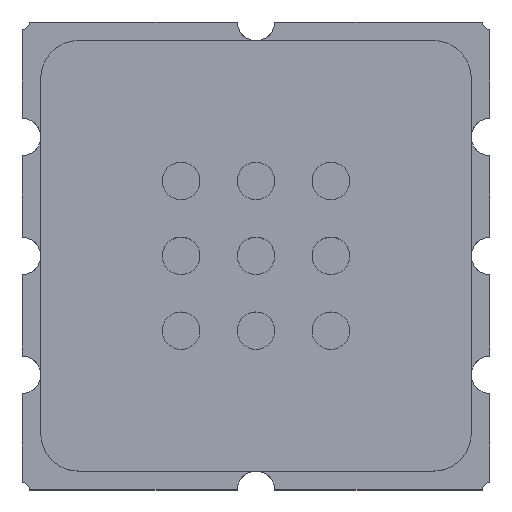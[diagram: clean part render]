
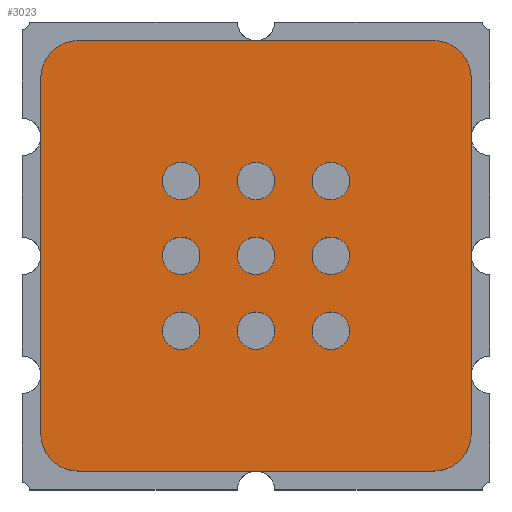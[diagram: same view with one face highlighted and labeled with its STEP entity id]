
A CAD part, top view. The second image highlights one B-rep face of the part: STEP entity #3023.
In plain terms, the highlighted planar face has unit normal (0, 0, 1).
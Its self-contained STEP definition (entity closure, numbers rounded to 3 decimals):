
#13=FACE_BOUND('',#431,.T.);
#14=FACE_BOUND('',#432,.T.);
#15=FACE_BOUND('',#433,.T.);
#16=FACE_BOUND('',#434,.T.);
#17=FACE_BOUND('',#435,.T.);
#18=FACE_BOUND('',#436,.T.);
#19=FACE_BOUND('',#437,.T.);
#20=FACE_BOUND('',#438,.T.);
#21=FACE_BOUND('',#439,.T.);
#262=FACE_OUTER_BOUND('',#430,.T.);
#430=EDGE_LOOP('',(#2659,#2660,#2661,#2662,#2663,#2664,#2665,#2666));
#431=EDGE_LOOP('',(#2667));
#432=EDGE_LOOP('',(#2668));
#433=EDGE_LOOP('',(#2669));
#434=EDGE_LOOP('',(#2670));
#435=EDGE_LOOP('',(#2671));
#436=EDGE_LOOP('',(#2672));
#437=EDGE_LOOP('',(#2673));
#438=EDGE_LOOP('',(#2674));
#439=EDGE_LOOP('',(#2675));
#524=CIRCLE('',#3273,0.4);
#525=CIRCLE('',#3276,0.4);
#526=CIRCLE('',#3277,0.4);
#527=CIRCLE('',#3278,0.4);
#528=CIRCLE('',#3279,0.2);
#529=CIRCLE('',#3280,0.2);
#530=CIRCLE('',#3281,0.2);
#531=CIRCLE('',#3282,0.2);
#532=CIRCLE('',#3283,0.2);
#533=CIRCLE('',#3284,0.2);
#534=CIRCLE('',#3285,0.2);
#535=CIRCLE('',#3286,0.2);
#536=CIRCLE('',#3287,0.2);
#862=LINE('',#4934,#1197);
#864=LINE('',#4938,#1199);
#865=LINE('',#4942,#1200);
#866=LINE('',#4946,#1201);
#1197=VECTOR('',#4047,10.);
#1199=VECTOR('',#4051,10.);
#1200=VECTOR('',#4054,10.);
#1201=VECTOR('',#4057,10.);
#1468=VERTEX_POINT('',#4927);
#1469=VERTEX_POINT('',#4928);
#1470=VERTEX_POINT('',#4933);
#1471=VERTEX_POINT('',#4937);
#1472=VERTEX_POINT('',#4939);
#1473=VERTEX_POINT('',#4941);
#1474=VERTEX_POINT('',#4943);
#1475=VERTEX_POINT('',#4945);
#1476=VERTEX_POINT('',#4948);
#1477=VERTEX_POINT('',#4950);
#1478=VERTEX_POINT('',#4952);
#1479=VERTEX_POINT('',#4954);
#1480=VERTEX_POINT('',#4956);
#1481=VERTEX_POINT('',#4958);
#1482=VERTEX_POINT('',#4960);
#1483=VERTEX_POINT('',#4962);
#1484=VERTEX_POINT('',#4964);
#1868=EDGE_CURVE('',#1468,#1469,#524,.T.);
#1871=EDGE_CURVE('',#1469,#1470,#862,.T.);
#1873=EDGE_CURVE('',#1468,#1471,#864,.T.);
#1874=EDGE_CURVE('',#1472,#1471,#525,.T.);
#1875=EDGE_CURVE('',#1473,#1472,#865,.T.);
#1876=EDGE_CURVE('',#1474,#1473,#526,.T.);
#1877=EDGE_CURVE('',#1475,#1474,#866,.T.);
#1878=EDGE_CURVE('',#1470,#1475,#527,.T.);
#1879=EDGE_CURVE('',#1476,#1476,#528,.T.);
#1880=EDGE_CURVE('',#1477,#1477,#529,.T.);
#1881=EDGE_CURVE('',#1478,#1478,#530,.T.);
#1882=EDGE_CURVE('',#1479,#1479,#531,.T.);
#1883=EDGE_CURVE('',#1480,#1480,#532,.T.);
#1884=EDGE_CURVE('',#1481,#1481,#533,.T.);
#1885=EDGE_CURVE('',#1482,#1482,#534,.T.);
#1886=EDGE_CURVE('',#1483,#1483,#535,.T.);
#1887=EDGE_CURVE('',#1484,#1484,#536,.T.);
#2659=ORIENTED_EDGE('',*,*,#1868,.F.);
#2660=ORIENTED_EDGE('',*,*,#1873,.T.);
#2661=ORIENTED_EDGE('',*,*,#1874,.F.);
#2662=ORIENTED_EDGE('',*,*,#1875,.F.);
#2663=ORIENTED_EDGE('',*,*,#1876,.F.);
#2664=ORIENTED_EDGE('',*,*,#1877,.F.);
#2665=ORIENTED_EDGE('',*,*,#1878,.F.);
#2666=ORIENTED_EDGE('',*,*,#1871,.F.);
#2667=ORIENTED_EDGE('',*,*,#1879,.T.);
#2668=ORIENTED_EDGE('',*,*,#1880,.T.);
#2669=ORIENTED_EDGE('',*,*,#1881,.T.);
#2670=ORIENTED_EDGE('',*,*,#1882,.T.);
#2671=ORIENTED_EDGE('',*,*,#1883,.T.);
#2672=ORIENTED_EDGE('',*,*,#1884,.T.);
#2673=ORIENTED_EDGE('',*,*,#1885,.T.);
#2674=ORIENTED_EDGE('',*,*,#1886,.T.);
#2675=ORIENTED_EDGE('',*,*,#1887,.T.);
#2867=PLANE('',#3275);
#3023=ADVANCED_FACE('',(#262,#13,#14,#15,#16,#17,#18,#19,#20,#21),#2867,
 .T.);
#3273=AXIS2_PLACEMENT_3D('',#4929,#4041,#4042);
#3275=AXIS2_PLACEMENT_3D('',#4936,#4049,#4050);
#3276=AXIS2_PLACEMENT_3D('',#4940,#4052,#4053);
#3277=AXIS2_PLACEMENT_3D('',#4944,#4055,#4056);
#3278=AXIS2_PLACEMENT_3D('',#4947,#4058,#4059);
#3279=AXIS2_PLACEMENT_3D('',#4949,#4060,#4061);
#3280=AXIS2_PLACEMENT_3D('',#4951,#4062,#4063);
#3281=AXIS2_PLACEMENT_3D('',#4953,#4064,#4065);
#3282=AXIS2_PLACEMENT_3D('',#4955,#4066,#4067);
#3283=AXIS2_PLACEMENT_3D('',#4957,#4068,#4069);
#3284=AXIS2_PLACEMENT_3D('',#4959,#4070,#4071);
#3285=AXIS2_PLACEMENT_3D('',#4961,#4072,#4073);
#3286=AXIS2_PLACEMENT_3D('',#4963,#4074,#4075);
#3287=AXIS2_PLACEMENT_3D('',#4965,#4076,#4077);
#4041=DIRECTION('center_axis',(0.,0.,-1.));
#4042=DIRECTION('ref_axis',(0.707,-0.707,0.));
#4047=DIRECTION('',(-1.,0.,0.));
#4049=DIRECTION('center_axis',(0.,0.,1.));
#4050=DIRECTION('ref_axis',(1.,0.,0.));
#4051=DIRECTION('',(0.,1.,0.));
#4052=DIRECTION('center_axis',(0.,0.,-1.));
#4053=DIRECTION('ref_axis',(0.707,0.707,0.));
#4054=DIRECTION('',(1.,0.,0.));
#4055=DIRECTION('center_axis',(0.,0.,-1.));
#4056=DIRECTION('ref_axis',(-0.707,0.707,0.));
#4057=DIRECTION('',(0.,1.,0.));
#4058=DIRECTION('center_axis',(0.,0.,-1.));
#4059=DIRECTION('ref_axis',(-0.707,-0.707,0.));
#4060=DIRECTION('center_axis',(0.,0.,-1.));
#4061=DIRECTION('ref_axis',(-1.,0.,0.));
#4062=DIRECTION('center_axis',(0.,0.,-1.));
#4063=DIRECTION('ref_axis',(-1.,0.,0.));
#4064=DIRECTION('center_axis',(0.,0.,-1.));
#4065=DIRECTION('ref_axis',(-1.,0.,0.));
#4066=DIRECTION('center_axis',(0.,0.,-1.));
#4067=DIRECTION('ref_axis',(-1.,0.,0.));
#4068=DIRECTION('center_axis',(0.,0.,-1.));
#4069=DIRECTION('ref_axis',(-1.,0.,0.));
#4070=DIRECTION('center_axis',(0.,0.,-1.));
#4071=DIRECTION('ref_axis',(-1.,0.,0.));
#4072=DIRECTION('center_axis',(0.,0.,-1.));
#4073=DIRECTION('ref_axis',(-1.,0.,0.));
#4074=DIRECTION('center_axis',(0.,0.,-1.));
#4075=DIRECTION('ref_axis',(-1.,0.,0.));
#4076=DIRECTION('center_axis',(0.,0.,-1.));
#4077=DIRECTION('ref_axis',(-1.,0.,0.));
#4927=CARTESIAN_POINT('',(2.3,-1.9,1.55));
#4928=CARTESIAN_POINT('',(1.9,-2.3,1.55));
#4929=CARTESIAN_POINT('Origin',(1.9,-1.9,1.55));
#4933=CARTESIAN_POINT('',(-1.9,-2.3,1.55));
#4934=CARTESIAN_POINT('',(-2.2,-2.3,1.55));
#4936=CARTESIAN_POINT('Origin',(0.,0.05,1.55));
#4937=CARTESIAN_POINT('',(2.3,1.9,1.55));
#4938=CARTESIAN_POINT('',(2.3,2.2,1.55));
#4939=CARTESIAN_POINT('',(1.9,2.3,1.55));
#4940=CARTESIAN_POINT('Origin',(1.9,1.9,1.55));
#4941=CARTESIAN_POINT('',(-1.9,2.3,1.55));
#4942=CARTESIAN_POINT('',(2.2,2.3,1.55));
#4943=CARTESIAN_POINT('',(-2.3,1.9,1.55));
#4944=CARTESIAN_POINT('Origin',(-1.9,1.9,1.55));
#4945=CARTESIAN_POINT('',(-2.3,-1.9,1.55));
#4946=CARTESIAN_POINT('',(-2.3,2.2,1.55));
#4947=CARTESIAN_POINT('Origin',(-1.9,-1.9,1.55));
#4948=CARTESIAN_POINT('',(1.,0.8,1.55));
#4949=CARTESIAN_POINT('Origin',(0.8,0.8,1.55));
#4950=CARTESIAN_POINT('',(0.2,0.,1.55));
#4951=CARTESIAN_POINT('Origin',(0.,0.,1.55));
#4952=CARTESIAN_POINT('',(-0.6,-0.8,1.55));
#4953=CARTESIAN_POINT('Origin',(-0.8,-0.8,1.55));
#4954=CARTESIAN_POINT('',(1.,0.,1.55));
#4955=CARTESIAN_POINT('Origin',(0.8,0.,
1.55));
#4956=CARTESIAN_POINT('',(0.2,0.8,1.55));
#4957=CARTESIAN_POINT('Origin',(0.,0.8,
1.55));
#4958=CARTESIAN_POINT('',(-0.6,0.,1.55));
#4959=CARTESIAN_POINT('Origin',(-0.8,0.,1.55));
#4960=CARTESIAN_POINT('',(0.2,-0.8,1.55));
#4961=CARTESIAN_POINT('Origin',(0.,-0.8,
1.55));
#4962=CARTESIAN_POINT('',(1.,-0.8,1.55));
#4963=CARTESIAN_POINT('Origin',(0.8,-0.8,1.55));
#4964=CARTESIAN_POINT('',(-0.6,0.8,1.55));
#4965=CARTESIAN_POINT('Origin',(-0.8,0.8,1.55));
